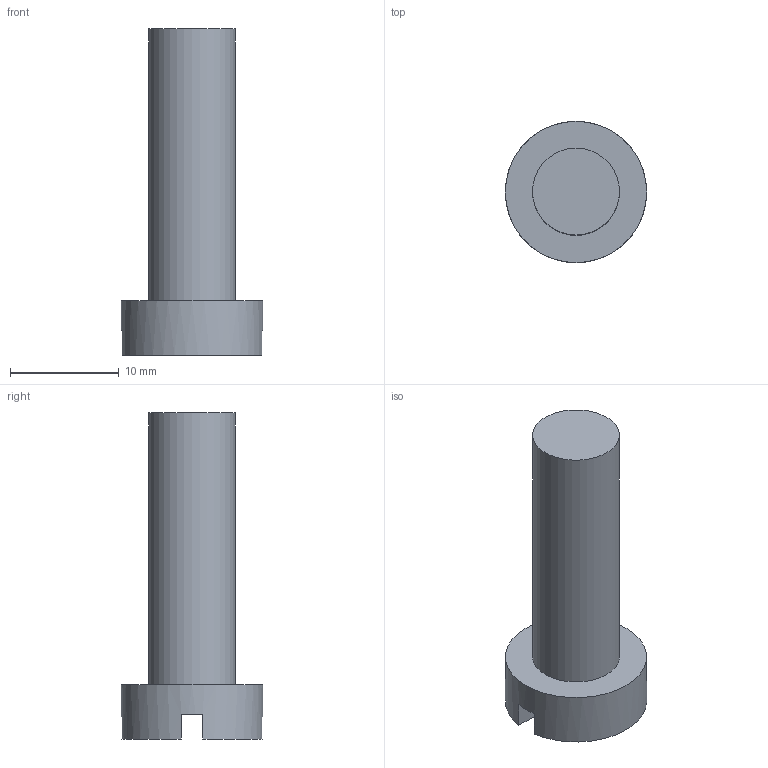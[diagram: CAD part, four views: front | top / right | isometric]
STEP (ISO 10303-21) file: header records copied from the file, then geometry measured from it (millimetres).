
FILE_DESCRIPTION(('Open CASCADE Model'),'2;1');
FILE_NAME('Open CASCADE Shape Model','2026-09-27T02:18:03',('Author'),( 'Open CASCADE'),'Open CASCADE STEP processor 7.9','Open CASCADE 7.9' ,'Unknown');
FILE_SCHEMA(('AUTOMOTIVE_DESIGN { 1 0 10303 214 1 1 1 1 }'));
Length unit declared in the file: millimetre
Products named in the file (1): Open CASCADE STEP translator 7.9 7
Bounding box: 13 x 13 x 30 mm (x, y, z)
Volume: 1860.7 mm3; surface area: 1147.8 mm2
Topology: 1 solids, 1 shells, 9 faces, 18 edges, 12 vertices
Faces by surface type: plane 7, cylinder 2
Full cylindrical faces by diameter (mm): 8 x1, 13 x1
Entity records: 472 total; most frequent: CARTESIAN_POINT 88, DIRECTION 70, ORIENTED_EDGE 36, PCURVE 36, DEFINITIONAL_REPRESENTATION 36, LINE 26, VECTOR 26, AXIS2_PLACEMENT_3D 18
